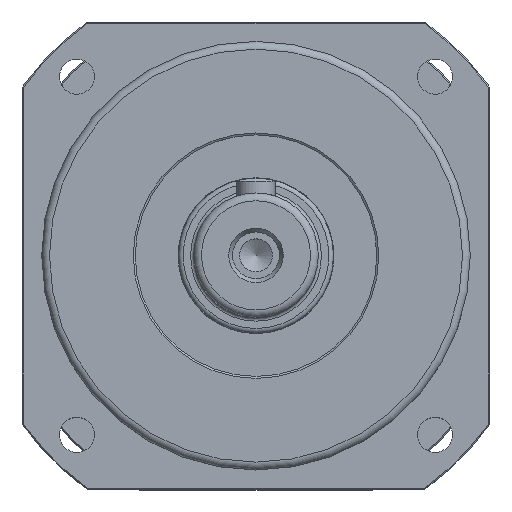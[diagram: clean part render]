
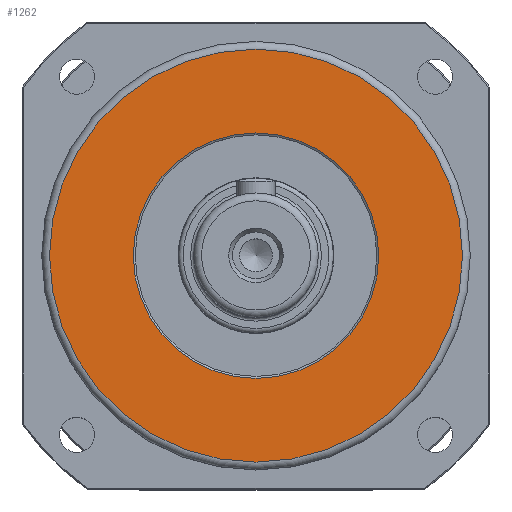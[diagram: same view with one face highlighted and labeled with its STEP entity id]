
A CAD part, top view. The second image highlights one B-rep face of the part: STEP entity #1262.
In plain terms, the highlighted planar face has unit normal (0, 0, 1).
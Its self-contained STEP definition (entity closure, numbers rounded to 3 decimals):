
#123=CARTESIAN_POINT('',(31.5,0.,12.));
#124=VERTEX_POINT('',#123);
#125=CARTESIAN_POINT('',(0.,0.0,12.));
#126=DIRECTION('',(0.0,0.0,-1.0));
#127=DIRECTION('',(1.0,0.0,0.0));
#128=AXIS2_PLACEMENT_3D('',#125,#126,#127);
#129=CIRCLE('',#128,31.5);
#130=EDGE_CURVE('',#124,#124,#129,.T.);
#151=CARTESIAN_POINT('',(53.,0.,12.));
#152=VERTEX_POINT('',#151);
#153=CARTESIAN_POINT('',(0.,0.0,12.));
#154=DIRECTION('',(0.0,0.0,1.0));
#155=DIRECTION('',(1.0,0.0,0.0));
#156=AXIS2_PLACEMENT_3D('',#153,#154,#155);
#157=CIRCLE('',#156,53.);
#158=EDGE_CURVE('',#152,#152,#157,.T.);
#1251=CARTESIAN_POINT('',(0.,0.0,12.));
#1252=DIRECTION('',(0.0,0.0,1.0));
#1253=DIRECTION('',(1.0,0.0,0.0));
#1254=AXIS2_PLACEMENT_3D('',#1251,#1252,#1253);
#1255=PLANE('',#1254);
#1256=ORIENTED_EDGE('',*,*,#158,.T.);
#1257=EDGE_LOOP('',(#1256));
#1258=FACE_OUTER_BOUND('',#1257,.T.);
#1259=ORIENTED_EDGE('',*,*,#130,.T.);
#1260=EDGE_LOOP('',(#1259));
#1261=FACE_BOUND('',#1260,.T.);
#1262=ADVANCED_FACE('',(#1258,#1261),#1255,.T.);
